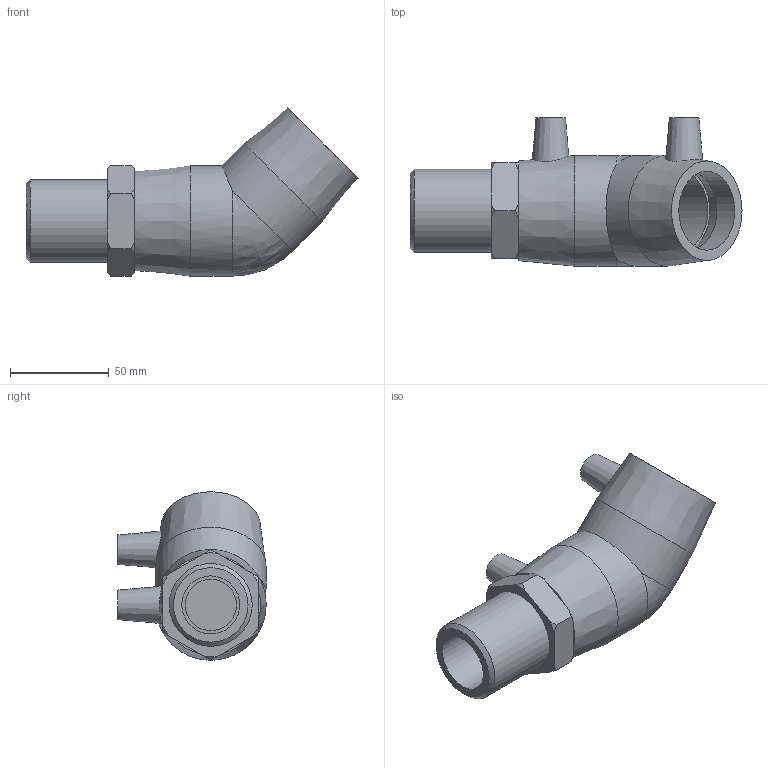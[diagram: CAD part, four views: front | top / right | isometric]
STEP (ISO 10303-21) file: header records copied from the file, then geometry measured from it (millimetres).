
FILE_DESCRIPTION(/* description */ ('PLASSON 45° ELBOW TRANSITION MALE 40 x 1 1⁄4"'),/* implementation_level */ '2;1');
FILE_NAME(/* name */ 'C:\Dropbox\KIMPROJECTS-Inventor\99-16-3568-Processing\ElectroFusion Fittings\02.02.20\492604\492604040013N.ipt.stp',/* time_stamp */ '2020-02-02T12:19:58+02:00',/* author */ ('KIM'),/* organization */ (''),/* preprocessor_version */ 'ST-DEVELOPER v15.6',/* originating_system */ 'Autodesk Inventor 2015',/* authorisation */ '');
FILE_SCHEMA (('AUTOMOTIVE_DESIGN { 1 0 10303 214 3 1 1 }'));
Length unit declared in the file: millimetre
Products named in the file (1): 492604040013N
Bounding box: 168 x 75 x 85.24 mm (x, y, z)
Volume: 217335.5 mm3; surface area: 53286.4 mm2
Topology: 1 solids, 2 shells, 61 faces, 137 edges, 90 vertices
Faces by surface type: plane 25, cone 19, cylinder 16, bspline 1
Full cylindrical faces by diameter (mm): 4 x2, 10 x2, 26 x2, 29.337 x1, 30 x1, 40 x4, 41.91 x1, 56 x2
Entity records: 1535 total; most frequent: CARTESIAN_POINT 369, DIRECTION 245, ORIENTED_EDGE 194, AXIS2_PLACEMENT_3D 113, EDGE_LOOP 99, EDGE_CURVE 97, VERTEX_POINT 76, FACE_OUTER_BOUND 61
